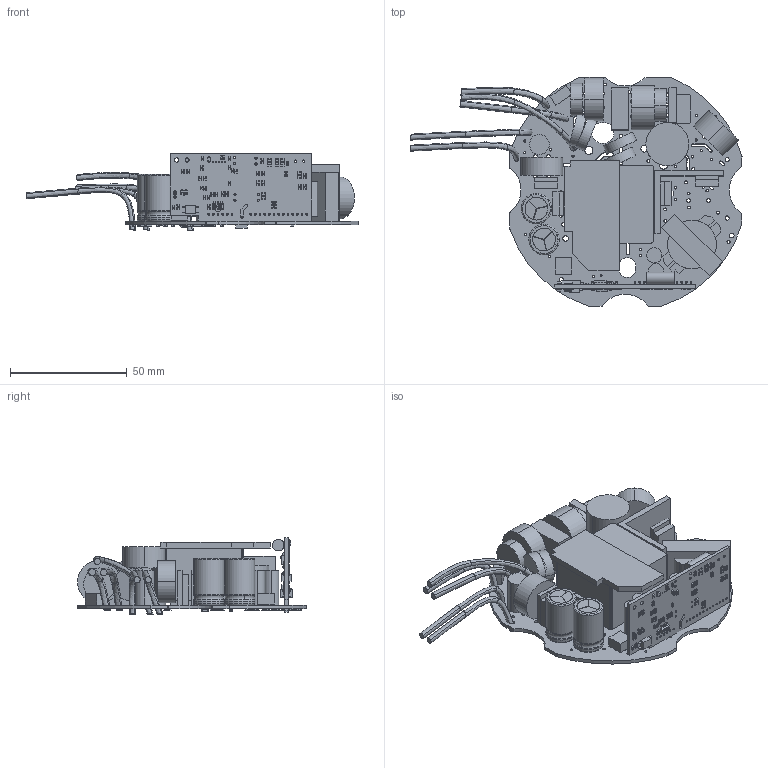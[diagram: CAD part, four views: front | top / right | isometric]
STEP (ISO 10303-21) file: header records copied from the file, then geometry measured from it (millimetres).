
FILE_DESCRIPTION((''),'2;1');
FILE_NAME('HBG-100DA-A-R7_ASM','2020-07-02T15:08:01',('shalinice'),(''),'CREO PARAMETRIC BY PTC INC, 2016390','CREO PARAMETRIC BY PTC INC, 2016390','');
FILE_SCHEMA(('AUTOMOTIVE_DESIGN { 1 0 10303 214 1 1 1 1 }'));
Products named in the file (224): BOARD; 498936576_1; 498936576_2; 498936576_3; 498936576_4; 498936576_ASM; R47_ASM; 1206_R; R110_ASM; SOD-123_1; SOD-123_2; SOD-123_3; SOD-123_4; SOD-123_ASM; D102_ASM; USER_LIBRARY-CAP_ELECTRO-216458; USER_LIBRARY-CAP_ELECTRO-219144; USER_LIBRARY-CAP_ELECTRO-221987; USER_LIBRARY-CAP_ELECTRO-2252_1; USER_LIBRARY-CAP_ELECTRO-2252_2; USER_LIBRARY-CAP_ELECTRO-2252_3; USER_LIBRARY-CAP_ELECTRO-225263_ASM; USER_LIBRARY-CAP_ELECTRO-226732; 1BCA-L130H200-P050-VT_ASM; C107_ASM; C106_ASM; 0805_R; R172_ASM; R167_ASM; R171_ASM; R120_ASM; J107_ASM; J106_ASM; R169_ASM; R168_ASM; R166_ASM; R165_ASM; R160_ASM; R154_ASM; R114_ASM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
Assembly tree (325 placements, depth 6):
  HBG-100DA-A-R7_ASM
    PCB_ASM
      BOARD
      R47_ASM
        498936576_ASM
          498936576_1
          498936576_2
          498936576_3
          498936576_4
      R110_ASM
        1206_R
      D102_ASM
        SOD-123_ASM
          SOD-123_1
          SOD-123_2
          SOD-123_3
          SOD-123_4
      C107_ASM
        1BCA-L130H200-P050-VT_ASM
          USER_LIBRARY-CAP_ELECTRO-216458
          USER_LIBRARY-CAP_ELECTRO-219144
          USER_LIBRARY-CAP_ELECTRO-221987
          USER_LIBRARY-CAP_ELECTRO-225263_ASM
            USER_LIBRARY-CAP_ELECTRO-2252_1
            USER_LIBRARY-CAP_ELECTRO-2252_2
            USER_LIBRARY-CAP_ELECTRO-2252_3
          USER_LIBRARY-CAP_ELECTRO-226732
      C106_ASM
        1BCA-L130H200-P050-VT_ASM
          USER_LIBRARY-CAP_ELECTRO-216458
          USER_LIBRARY-CAP_ELECTRO-219144
          USER_LIBRARY-CAP_ELECTRO-221987
          USER_LIBRARY-CAP_ELECTRO-225263_ASM
            USER_LIBRARY-CAP_ELECTRO-2252_1
            USER_LIBRARY-CAP_ELECTRO-2252_2
            USER_LIBRARY-CAP_ELECTRO-2252_3
          USER_LIBRARY-CAP_ELECTRO-226732
      R172_ASM
        0805_R
      R167_ASM
        0805_R
      R171_ASM
        0805_R
      R120_ASM
        1206_R
      J107_ASM
        1206_R
      J106_ASM
        1206_R
      R169_ASM
        0805_R
      R168_ASM
        1206_R
      R166_ASM
        0805_R
      R165_ASM
        0805_R
      R160_ASM
        0805_R
      R154_ASM
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Bounding box: 142.33 x 98.16 x 32.96 mm (x, y, z)
Volume: 89359.4 mm3; surface area: 60897.7 mm2
Topology: 196 solids, 201 shells, 7510 faces, 20516 edges, 13634 vertices
Faces by surface type: plane 5758, extrusion 1016, cylinder 618, bspline 60, torus 30, sphere 28
Entity records: 209160 total; most frequent: CARTESIAN_POINT 61422, ORIENTED_EDGE 22642, DIRECTION 19492, EDGE_CURVE 11321, PRESENTATION_STYLE_ASSIGNMENT 11082, STYLED_ITEM 10977, CURVE_STYLE 10726, VECTOR 8234
